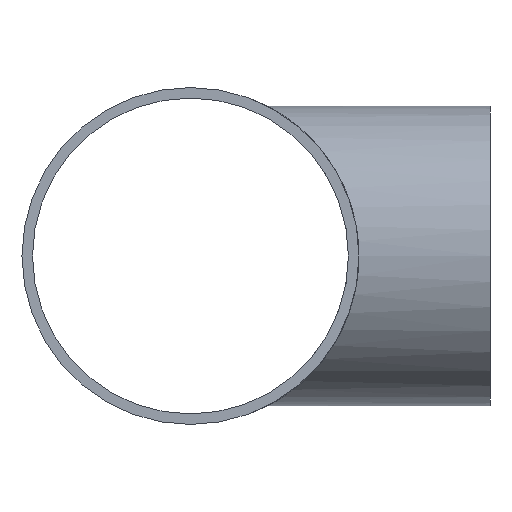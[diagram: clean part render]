
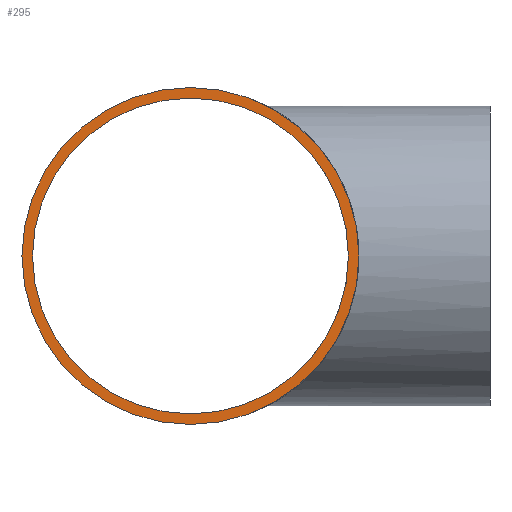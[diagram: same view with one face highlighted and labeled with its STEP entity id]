
A CAD part, left-side view. The second image highlights one B-rep face of the part: STEP entity #295.
In plain terms, the highlighted planar face has unit normal (-1, 0, 0).
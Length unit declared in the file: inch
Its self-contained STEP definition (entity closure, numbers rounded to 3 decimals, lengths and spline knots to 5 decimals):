
#79=FACE_BOUND('',#114,.T.);
#92=FACE_OUTER_BOUND('',#113,.T.);
#113=EDGE_LOOP('',(#242));
#114=EDGE_LOOP('',(#243,#244));
#135=CIRCLE('',#343,8.437);
#136=CIRCLE('',#344,8.437);
#137=CIRCLE('',#346,9.);
#157=VERTEX_POINT('',#642);
#158=VERTEX_POINT('',#644);
#161=VERTEX_POINT('',#766);
#186=EDGE_CURVE('',#158,#157,#135,.T.);
#187=EDGE_CURVE('',#157,#158,#136,.T.);
#190=EDGE_CURVE('',#161,#161,#137,.T.);
#242=ORIENTED_EDGE('',*,*,#190,.T.);
#243=ORIENTED_EDGE('',*,*,#186,.T.);
#244=ORIENTED_EDGE('',*,*,#187,.T.);
#265=PLANE('',#347);
#295=ADVANCED_FACE('',(#92,#79),#265,.F.);
#343=AXIS2_PLACEMENT_3D('',#645,#421,#422);
#344=AXIS2_PLACEMENT_3D('',#646,#423,#424);
#346=AXIS2_PLACEMENT_3D('',#767,#427,#428);
#347=AXIS2_PLACEMENT_3D('',#769,#430,#431);
#421=DIRECTION('center_axis',(1.,0.,0.));
#422=DIRECTION('ref_axis',(0.,-1.,0.));
#423=DIRECTION('center_axis',(1.,0.,0.));
#424=DIRECTION('ref_axis',(0.,-1.,0.));
#427=DIRECTION('center_axis',(-1.,0.,0.));
#428=DIRECTION('ref_axis',(0.,-1.,0.));
#430=DIRECTION('center_axis',(1.,0.,0.));
#431=DIRECTION('ref_axis',(0.,0.,-1.));
#642=CARTESIAN_POINT('',(-16.5,8.437,0.));
#644=CARTESIAN_POINT('',(-16.5,-8.437,0.));
#645=CARTESIAN_POINT('Origin',(-16.5,0.,0.));
#646=CARTESIAN_POINT('Origin',(-16.5,0.,0.));
#766=CARTESIAN_POINT('',(-16.5,9.,0.));
#767=CARTESIAN_POINT('Origin',(-16.5,0.,0.));
#769=CARTESIAN_POINT('Origin',(-16.5,0.,0.));
